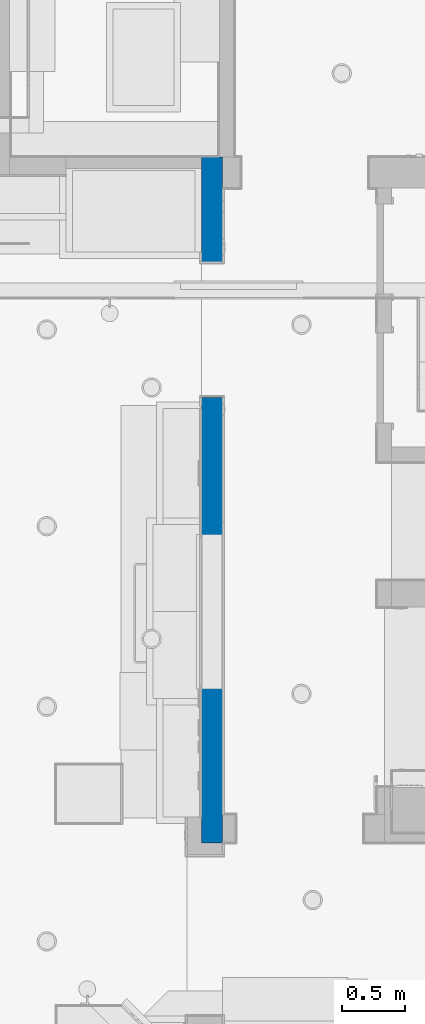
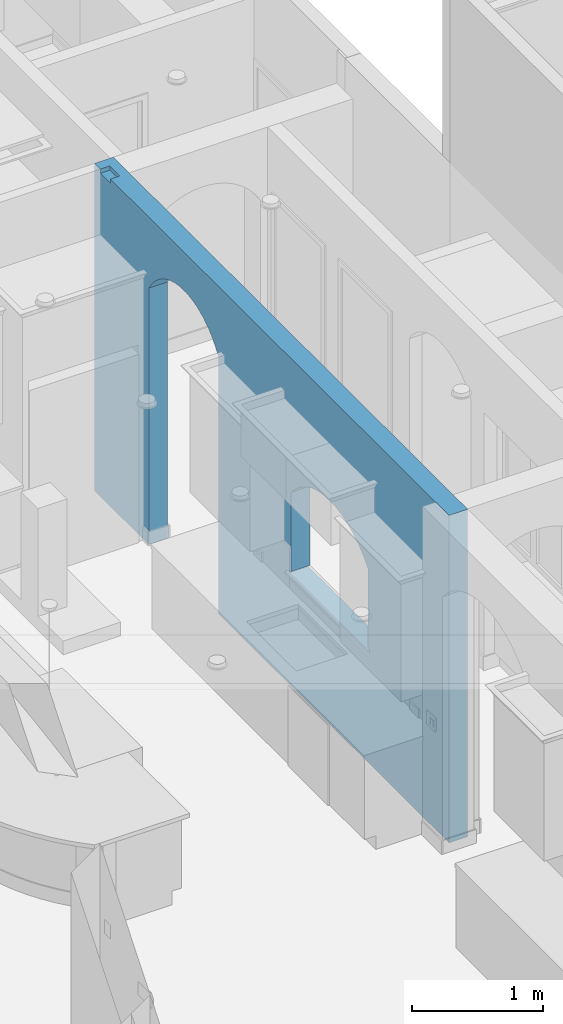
# One storey, part 31 of 81: 1 wall.
"""IFC2X3 building model written with IfcOpenShell, lengths in feet."""

from ifc_helpers import new_model, entity, si_unit, converted_unit, derived_unit, direction, frame, origin, place, context, subcontext, project, spatial, faceted_brep, material, layer, layer_set, type_object, element, save


model = new_model("IFC2X3")

# Units and contexts
model_context = context("Model", 3, precision=0.0001, world=origin(), true_north=direction((6.12303176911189e-17, 1.0)))
body_context = subcontext(model_context, "Body", "Model", "MODEL_VIEW")
ifc_project = project(units=[converted_unit("LENGTHUNIT", "FOOT", entity("IfcRatioMeasure", 0.3048), si_unit("LENGTHUNIT", "METRE"), dimensions=[1, 0, 0, 0, 0, 0, 0]), converted_unit("AREAUNIT", "SQUARE FOOT", entity("IfcRatioMeasure", 0.09290304), si_unit("AREAUNIT", "SQUARE_METRE"), dimensions=[2, 0, 0, 0, 0, 0, 0]), converted_unit("VOLUMEUNIT", "CUBIC FOOT", entity("IfcRatioMeasure", 0.028316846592), si_unit("VOLUMEUNIT", "CUBIC_METRE"), dimensions=[3, 0, 0, 0, 0, 0, 0]), converted_unit("PLANEANGLEUNIT", "DEGREE", entity("IfcRatioMeasure", 0.0174532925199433), si_unit("PLANEANGLEUNIT", "RADIAN"), dimensions=[0, 0, 0, 0, 0, 0, 0]), si_unit("MASSUNIT", "GRAM", prefix="KILO"), derived_unit("MASSDENSITYUNIT", [(si_unit("MASSUNIT", "GRAM", prefix="KILO"), 1), (si_unit("LENGTHUNIT", "METRE"), -3)]), derived_unit("MOMENTOFINERTIAUNIT", [(si_unit("LENGTHUNIT", "METRE"), 4)]), si_unit("TIMEUNIT", "SECOND"), si_unit("FREQUENCYUNIT", "HERTZ"), si_unit("THERMODYNAMICTEMPERATUREUNIT", "DEGREE_CELSIUS"), derived_unit("THERMALTRANSMITTANCEUNIT", [(si_unit("MASSUNIT", "GRAM", prefix="KILO"), 1), (si_unit("THERMODYNAMICTEMPERATUREUNIT", "KELVIN"), -1), (si_unit("TIMEUNIT", "SECOND"), -3)]), derived_unit("VOLUMETRICFLOWRATEUNIT", [(si_unit("LENGTHUNIT", "METRE"), 3), (si_unit("TIMEUNIT", "SECOND"), -1)]), si_unit("ELECTRICCURRENTUNIT", "AMPERE"), si_unit("ELECTRICVOLTAGEUNIT", "VOLT"), si_unit("POWERUNIT", "WATT"), si_unit("FORCEUNIT", "NEWTON"), si_unit("ILLUMINANCEUNIT", "LUX"), si_unit("LUMINOUSFLUXUNIT", "LUMEN"), si_unit("LUMINOUSINTENSITYUNIT", "CANDELA"), derived_unit("USERDEFINED", [(si_unit("MASSUNIT", "GRAM", prefix="KILO"), -1), (si_unit("LENGTHUNIT", "METRE"), -2), (si_unit("TIMEUNIT", "SECOND"), 3), (si_unit("LUMINOUSFLUXUNIT", "LUMEN"), 1)]), derived_unit("LINEARVELOCITYUNIT", [(si_unit("LENGTHUNIT", "METRE"), 1), (si_unit("TIMEUNIT", "SECOND"), -1)]), si_unit("PRESSUREUNIT", "PASCAL"), derived_unit("USERDEFINED", [(si_unit("LENGTHUNIT", "METRE"), -2), (si_unit("MASSUNIT", "GRAM", prefix="KILO"), 1), (si_unit("TIMEUNIT", "SECOND"), -2)]), derived_unit("LINEARFORCEUNIT", [(si_unit("MASSUNIT", "GRAM", prefix="KILO"), 1), (si_unit("LENGTHUNIT", "METRE"), 1), (si_unit("TIMEUNIT", "SECOND"), -2), (si_unit("LENGTHUNIT", "METRE"), -1)]), derived_unit("PLANARFORCEUNIT", [(si_unit("MASSUNIT", "GRAM", prefix="KILO"), 1), (si_unit("LENGTHUNIT", "METRE"), 1), (si_unit("TIMEUNIT", "SECOND"), -2), (si_unit("LENGTHUNIT", "METRE"), -2)])], contexts=[model_context])

# Site, building, storey
site_placement = place(None, origin())
site = spatial("IfcSite", under=ifc_project, at=site_placement, Name="Default", CompositionType="ELEMENT")
building_placement = place(site_placement, origin())
building = spatial("IfcBuilding", under=site, at=building_placement, CompositionType="ELEMENT")
storey_placement = place(building_placement, origin())
storey = spatial("IfcBuildingStorey", under=building, at=storey_placement, Name="First floor", CompositionType="ELEMENT", Elevation=0.0)

# Wall
ifc_material = material(Name="Default New Material")
ifc_layer = layer(ifc_material, 0.541666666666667)
ifc_layer_set = layer_set([ifc_layer], Name="Basic Wall:Wall_6.5\"")
wall_type = type_object("IfcWallType", Name="Basic Wall:Wall_6.5\"", PredefinedType="STANDARD", material=ifc_layer_set)
wall_placement = place(storey_placement, frame((13.1875, 33.4163215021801, 10.6666666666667), z_axis=(0.0, 0.0, 1.0), x_axis=(0.0, -1.0, 0.0)))
element("IfcWall", 1, at=wall_placement, inside=storey, type_object=wall_type, Name="Basic Wall:Wall_6.5\"", ObjectType="Basic Wall:Wall_6.5\"", context=body_context, shape_type="Brep", body=[
    faceted_brep([(17.0625, -0.270833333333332, 0.0), (6.20833333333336, -0.270833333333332, 0.0), (6.20833333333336, 0.270833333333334, 0.0), (17.0, 0.270833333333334, 0.0), (17.7083333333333, 0.270833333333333, 0.0), (17.7288215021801, 0.270833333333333, 0.0), (17.7288215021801, -0.270833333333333, 0.0), (0.291321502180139, -0.270833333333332, 0.0), (0.0, -0.270833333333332, 0.0), (0.0, 0.187499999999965, 0.0), (0.0, 0.270833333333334, 0.0), (0.791666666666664, 0.270833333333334, 0.0), (2.70833333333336, 0.270833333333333, 0.0), (2.70833333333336, -0.270833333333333, 0.0), (9.83333333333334, -0.270833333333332, 3.5), (9.75000000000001, -0.270833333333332, 3.5), (9.75000000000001, 0.270833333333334, 3.5), (9.83333333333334, 0.270833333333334, 3.5), (13.75, -0.270833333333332, 3.5), (13.6666666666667, -0.270833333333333, 3.5), (13.6666666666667, 0.270833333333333, 3.5), (13.75, 0.270833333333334, 3.5), (2.70833333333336, -0.270833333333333, 7.83333333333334), (0.291321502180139, -0.270833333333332, 9.875), (0.791666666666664, -0.270833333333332, 9.875), (2.86738583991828, -0.270833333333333, 8.06496204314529), (3.0568807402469, -0.270833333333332, 8.27242587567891), (3.27319209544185, -0.270833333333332, 8.45175506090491), (0.791666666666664, -0.270833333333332, 10.0), (3.51218084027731, -0.270833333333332, 8.5995181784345), (3.76927398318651, -0.270833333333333, 8.71288781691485), (4.03955210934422, -0.270833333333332, 8.78969467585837), (4.31784351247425, -0.270833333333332, 8.82846907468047), (4.59882315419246, -0.270833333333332, 8.82846907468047), (4.87711455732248, -0.270833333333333, 8.78969467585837), (17.0625, -0.270833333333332, 10.0), (5.1473926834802, -0.270833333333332, 8.71288781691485), (5.40448582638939, -0.270833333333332, 8.5995181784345), (5.64347457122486, -0.270833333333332, 8.45175506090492), (11.437030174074, -0.270833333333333, 6.81336091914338), (5.85978592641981, -0.270833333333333, 8.27242587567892), (11.1291378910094, -0.270833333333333, 6.75376770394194), (6.04928082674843, -0.270833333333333, 8.0649620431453), (10.8313183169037, -0.270833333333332, 6.65552051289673), (6.20833333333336, -0.270833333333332, 7.83333333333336), (10.5484032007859, -0.270833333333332, 6.52021328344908), (10.284982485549, -0.270833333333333, 6.35004120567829), (10.045329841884, -0.270833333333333, 6.14776510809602), (9.83333333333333, -0.270833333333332, 5.91666666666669), (9.75000000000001, -0.270833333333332, 3.41666666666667), (13.6666666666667, -0.270833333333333, 3.41666666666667), (13.75, -0.270833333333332, 3.41666666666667), (13.6666666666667, -0.270833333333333, 5.91666666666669), (17.7288215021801, -0.270833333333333, 10.0), (13.454670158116, -0.270833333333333, 6.14776510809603), (11.75, -0.270833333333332, 6.83333333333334), (13.2150175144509, -0.270833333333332, 6.3500412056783), (12.951596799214, -0.270833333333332, 6.52021328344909), (12.6686816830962, -0.270833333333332, 6.65552051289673), (12.3708621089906, -0.270833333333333, 6.75376770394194), (12.062969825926, -0.270833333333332, 6.81336091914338), (0.0, -0.270833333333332, 10.0), (0.291321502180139, -0.270833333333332, 10.0), (13.75, 0.270833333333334, 3.41666666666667), (13.6666666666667, 0.270833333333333, 5.91666666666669), (17.7288215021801, 0.270833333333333, 10.0), (17.7083333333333, 0.270833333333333, 10.0), (17.0, 0.270833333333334, 10.0), (13.454670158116, 0.270833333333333, 6.14776510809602), (13.215017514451, 0.270833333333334, 6.35004120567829), (12.9515967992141, 0.270833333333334, 6.52021328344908), (12.6686816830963, 0.270833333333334, 6.65552051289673), (12.3708621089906, 0.270833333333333, 6.75376770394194), (12.062969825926, 0.270833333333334, 6.81336091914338), (11.75, 0.270833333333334, 6.83333333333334), (11.437030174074, 0.270833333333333, 6.81336091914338), (5.64347457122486, 0.270833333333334, 8.45175506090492), (5.85978592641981, 0.270833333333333, 8.27242587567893), (11.1291378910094, 0.270833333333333, 6.75376770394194), (6.04928082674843, 0.270833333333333, 8.0649620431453), (10.8313183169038, 0.270833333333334, 6.65552051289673), (6.20833333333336, 0.270833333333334, 7.83333333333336), (10.548403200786, 0.270833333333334, 6.52021328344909), (10.2849824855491, 0.270833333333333, 6.3500412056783), (10.045329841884, 0.270833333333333, 6.14776510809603), (9.83333333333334, 0.270833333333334, 5.91666666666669), (9.75000000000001, 0.270833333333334, 3.41666666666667), (5.40448582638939, 0.270833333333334, 8.5995181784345), (5.1473926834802, 0.270833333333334, 8.71288781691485), (4.87711455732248, 0.270833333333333, 8.78969467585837), (0.791666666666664, 0.270833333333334, 10.0), (4.59882315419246, 0.270833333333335, 8.82846907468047), (4.31784351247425, 0.270833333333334, 8.82846907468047), (4.03955210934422, 0.270833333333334, 8.78969467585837), (3.76927398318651, 0.270833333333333, 8.71288781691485), (3.51218084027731, 0.270833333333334, 8.5995181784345), (3.27319209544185, 0.270833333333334, 8.45175506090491), (3.0568807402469, 0.270833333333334, 8.27242587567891), (2.86738583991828, 0.270833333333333, 8.06496204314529), (2.70833333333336, 0.270833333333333, 7.83333333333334), (0.0, 0.270833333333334, 10.0), (0.0, 0.187499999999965, 10.0), (0.291321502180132, 0.0, 10.0), (0.791666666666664, 0.0, 10.0), (0.791666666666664, 0.0, 9.875), (0.291321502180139, 0.0, 9.875)], [[[0, 1, 2, 3, 4, 5, 6]], [[7, 8, 9, 10, 11, 12, 13]], [[14, 15, 16, 17]], [[18, 19, 20, 21]], [[22, 8, 7]], [[22, 7, 13]], [[8, 22, 23]], [[22, 24, 23]], [[22, 25, 24]], [[25, 26, 24]], [[26, 27, 24]], [[27, 28, 24]], [[27, 29, 28]], [[29, 30, 28]], [[30, 31, 28]], [[31, 32, 28]], [[32, 33, 28]], [[33, 34, 28]], [[34, 35, 28]], [[35, 34, 36]], [[36, 37, 35]], [[38, 35, 37]], [[39, 35, 38]], [[38, 40, 39]], [[39, 40, 41]], [[42, 41, 40]], [[41, 42, 43]], [[42, 44, 43]], [[43, 44, 45]], [[46, 45, 44]], [[47, 46, 44]], [[48, 47, 44]], [[15, 48, 44]], [[44, 1, 15]], [[49, 15, 1]], [[49, 1, 0]], [[0, 50, 49]], [[0, 51, 50]], [[18, 51, 0]], [[18, 0, 6]], [[52, 18, 6]], [[6, 53, 52]], [[52, 53, 35]], [[54, 52, 35]], [[39, 55, 35]], [[54, 35, 56]], [[57, 56, 35]], [[58, 57, 35]], [[35, 59, 58]], [[60, 59, 35]], [[60, 35, 55]], [[52, 19, 18]], [[15, 14, 48]], [[23, 61, 8]], [[23, 62, 61]], [[21, 5, 4]], [[21, 4, 3]], [[63, 21, 3]], [[5, 21, 64]], [[21, 20, 64]], [[5, 64, 65]], [[66, 65, 64]], [[64, 67, 66]], [[64, 68, 67]], [[68, 69, 67]], [[69, 70, 67]], [[70, 71, 67]], [[71, 72, 67]], [[72, 73, 67]], [[73, 74, 67]], [[74, 75, 67]], [[75, 76, 67]], [[77, 76, 75]], [[77, 75, 78]], [[79, 77, 78]], [[79, 78, 80]], [[81, 79, 80]], [[81, 80, 82]], [[83, 81, 82]], [[84, 81, 83]], [[81, 84, 85]], [[81, 85, 16]], [[16, 85, 17]], [[16, 2, 81]], [[86, 2, 16]], [[63, 3, 86]], [[2, 86, 3]], [[87, 67, 76]], [[87, 88, 67]], [[89, 67, 88]], [[89, 90, 67]], [[89, 91, 90]], [[91, 92, 90]], [[93, 90, 92]], [[93, 94, 90]], [[90, 94, 95]], [[95, 96, 90]], [[96, 97, 90]], [[98, 90, 97]], [[98, 99, 90]], [[99, 100, 90]], [[10, 100, 99]], [[99, 11, 10]], [[99, 12, 11]], [[53, 6, 5, 65]], [[28, 35, 53, 65, 66, 67, 90, 100, 101, 61, 62, 102, 103]], [[13, 12, 99, 22]], [[25, 22, 99, 98]], [[98, 97, 26, 25]], [[97, 96, 27, 26]], [[93, 31, 30, 94]], [[95, 94, 30, 29]], [[92, 32, 31, 93]], [[29, 27, 96, 95]], [[92, 91, 33, 32]], [[36, 34, 89, 88]], [[34, 33, 91, 89]], [[37, 36, 88, 87]], [[79, 42, 40, 77]], [[40, 38, 76, 77]], [[38, 37, 87, 76]], [[44, 42, 79, 81]], [[44, 81, 2, 1]], [[20, 19, 52, 64]], [[17, 85, 48, 14]], [[63, 86, 49, 50, 51]], [[68, 64, 52, 54]], [[69, 68, 54, 56]], [[73, 72, 59, 60]], [[72, 71, 58, 59]], [[60, 55, 74, 73]], [[57, 70, 69, 56]], [[58, 71, 70, 57]], [[78, 75, 39, 41]], [[78, 41, 43, 80]], [[46, 47, 84, 83]], [[83, 82, 45, 46]], [[82, 80, 43, 45]], [[85, 84, 47, 48]], [[39, 75, 74, 55]], [[86, 16, 15, 49]], [[63, 51, 18, 21]], [[101, 100, 10, 9, 8, 61]], [[104, 105, 23, 24]], [[24, 28, 103, 104]], [[104, 103, 102, 105]], [[105, 102, 62, 23]]]),
])

save(model, "model.ifc")
